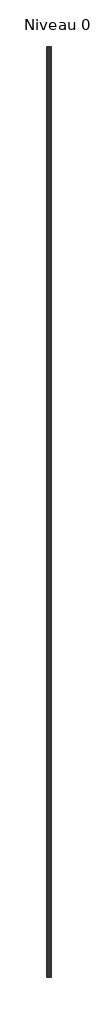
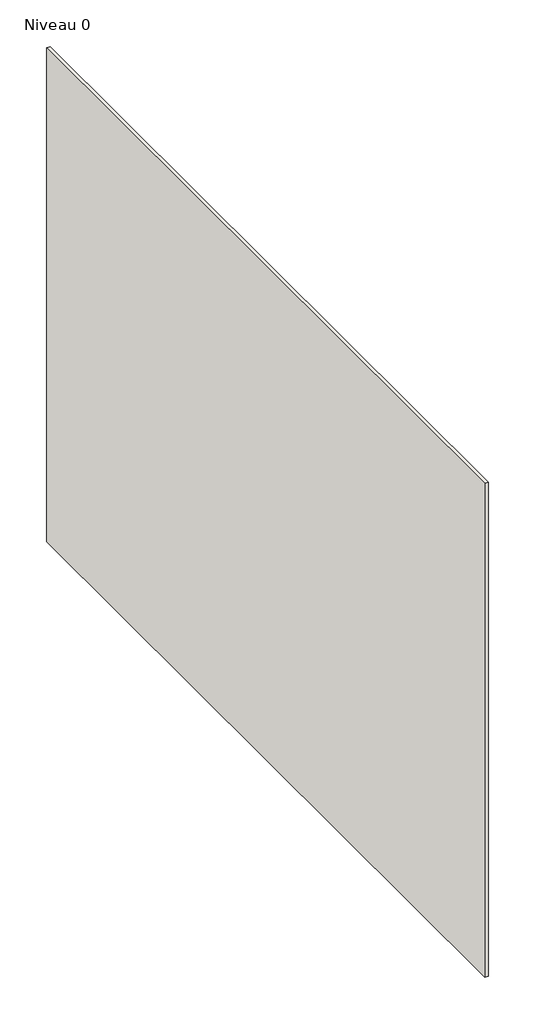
# One storey: 1 wall.
"""IFC4 building model written with IfcOpenShell, lengths in millimetres."""

import ifcopenshell
import ifcopenshell.guid

model = None  # the IFC model being written
_history = None  # IfcOwnerHistory: only IFC2X3 demands one
_inside = {}  # id of a spatial element -> (the spatial element, [elements in it])
_under = {}  # id of a project, library or spatial element -> (it, [spatial elements below it])
_declared = {}  # id of a project -> (the project, [libraries it declares])
_typed = {}  # id of a type object -> (the type object, [elements of that type])
_made_of = {}  # id of a material, layer set ... -> (it, [elements and type objects made of it])


def new_model(schema):
    """Start an empty IFC model of exactly this schema.

    Asked for "IFC4X3", IfcOpenShell would pick the latest addendum, in which some entities
    have other attributes; the version numbers below select the first issue.
    IFC2X3 requires an IfcOwnerHistory on every rooted entity: one is made here for all.
    """
    global model, _history
    if schema == "IFC4X3":
        model = ifcopenshell.file(schema_version=(4, 3, 0, 0))
    else:
        model = ifcopenshell.file(schema=schema)
    _inside.clear()
    _under.clear()
    _declared.clear()
    _typed.clear()
    _made_of.clear()
    _history = None
    if model.schema == "IFC2X3":
        org = make("IfcOrganization", Name="unknown")
        user = make(
            "IfcPersonAndOrganization",
            ThePerson=make("IfcPerson", FamilyName="unknown"),
            TheOrganization=org,
        )
        app = make(
            "IfcApplication",
            ApplicationDeveloper=org,
            Version="unknown",
            ApplicationFullName="unknown",
            ApplicationIdentifier="unknown",
        )
        _history = make(
            "IfcOwnerHistory",
            OwningUser=user,
            OwningApplication=app,
            ChangeAction="ADDED",
            CreationDate=0,
        )
    return model


def make(cls, **values):
    """One entity of the class cls with the attributes given. An attribute that is None is left unset."""
    return model.create_entity(
        cls, **{name: value for name, value in values.items() if value is not None}
    )


def rooted(cls, **values):
    """An entity with a GlobalId (a new one), such as an element, a storey or a relation."""
    return make(cls, GlobalId=ifcopenshell.guid.new(), OwnerHistory=_history, **values)


def si_unit(unit_type, name, prefix=None):
    """IfcSIUnit, for example si_unit("LENGTHUNIT", "METRE", prefix="MILLI")."""
    return make("IfcSIUnit", UnitType=unit_type, Prefix=prefix, Name=name)


def assignment(units):
    """IfcUnitAssignment: the units of a project."""
    return None if units is None else make("IfcUnitAssignment", Units=units)


def point(xyz):
    """IfcCartesianPoint."""
    return None if xyz is None else make("IfcCartesianPoint", Coordinates=xyz)


def direction(xyz):
    """IfcDirection."""
    return None if xyz is None else make("IfcDirection", DirectionRatios=xyz)


def frame(location, z_axis=None, x_axis=None):
    """IfcAxis2Placement3D, a coordinate frame: its origin and axes. An axis left out is left unset."""
    return make(
        "IfcAxis2Placement3D",
        Location=point(location),
        Axis=direction(z_axis),
        RefDirection=direction(x_axis),
    )


def origin():
    """The frame at (0, 0, 0) with its axes left unset."""
    return frame((0.0, 0.0, 0.0))


def place(relative_to, where):
    """IfcLocalPlacement: puts the frame where relative to a parent placement (None: the world)."""
    return make(
        "IfcLocalPlacement", PlacementRelTo=relative_to, RelativePlacement=where
    )


def context(
    kind, dimensions, precision=None, world=None, true_north=None, identifier=None
):
    """IfcGeometricRepresentationContext, for example the 3D "Model" context."""
    return make(
        "IfcGeometricRepresentationContext",
        ContextIdentifier=identifier,
        ContextType=kind,
        CoordinateSpaceDimension=dimensions,
        Precision=precision,
        WorldCoordinateSystem=world,
        TrueNorth=true_north,
    )


def project(units=None, contexts=None):
    """IfcProject with its units and contexts."""
    return rooted(
        "IfcProject",
        Name="project",
        RepresentationContexts=contexts,
        UnitsInContext=assignment(units),
    )


def spatial(cls, under=None, at=None, **own):
    """A site, building, storey or space (cls), placed at a placement, below another one or the project."""
    s = rooted(cls, ObjectPlacement=at, **own)
    if under is not None:
        _under.setdefault(under.id(), (under, []))[1].append(s)
    return s


def polyline(points):
    """IfcPolyline through the points."""
    return make("IfcPolyline", Points=[point(p) for p in points])


def outline(outer, holes=None, kind="AREA"):
    """IfcArbitraryClosedProfileDef: a profile drawn as a closed curve; with holes, ...WithVoids."""
    if holes is None:
        return make("IfcArbitraryClosedProfileDef", ProfileType=kind, OuterCurve=outer)
    return make(
        "IfcArbitraryProfileDefWithVoids",
        ProfileType=kind,
        OuterCurve=outer,
        InnerCurves=holes,
    )


def extrude(swept, where, along, depth):
    """IfcExtrudedAreaSolid: the profile swept, set in the frame where, extruded along a direction by depth."""
    return make(
        "IfcExtrudedAreaSolid",
        SweptArea=swept,
        Position=where,
        ExtrudedDirection=direction(along),
        Depth=depth,
    )


def shape(context_of_items, identifier, shape_type, items):
    """IfcShapeRepresentation: the items that make up one representation, for example the "Body"."""
    return make(
        "IfcShapeRepresentation",
        ContextOfItems=context_of_items,
        RepresentationIdentifier=identifier,
        RepresentationType=shape_type,
        Items=items,
    )


def made_of(thing, what):
    """Note that an element or type object is made of a material, layer set ...; save() writes the relation."""
    if what is not None:
        _made_of.setdefault(what.id(), (what, []))[1].append(thing)
    return thing


def element(
    cls,
    number,
    at=None,
    inside=None,
    cuts=None,
    type_object=None,
    material=None,
    context=None,
    identifier="Body",
    shape_type=None,
    held_by="IfcProductDefinitionShape",
    body=None,
    shapes=None,
    **own,
):
    """One element of the class cls, such as IfcWall. Its Tag is "e" and its number.

    at: its placement. inside: the storey or other place that contains it. cuts: it is an
    opening in that element (IfcRelVoidsElement). A single representation is given by context,
    identifier, shape_type and body (its items); several are given by shapes. held_by: the class
    of the entity that holds the representations. save() writes the other relations.
    """
    e = rooted(cls, Tag="e%d" % number, ObjectPlacement=at, **own)
    if body is not None:
        shapes = [shape(context, identifier, shape_type, body)]
    if shapes is not None:
        e.Representation = make(held_by, Representations=shapes)
    if inside is not None:
        _inside.setdefault(inside.id(), (inside, []))[1].append(e)
    if cuts is not None:
        rooted(
            "IfcRelVoidsElement", RelatingBuildingElement=cuts, RelatedOpeningElement=e
        )
    if type_object is not None:
        _typed.setdefault(type_object.id(), (type_object, []))[1].append(e)
    return made_of(e, material)


def aggregate(whole, parts):
    """IfcRelAggregates: a whole, such as a stair, and the parts it consists of."""
    return rooted("IfcRelAggregates", RelatingObject=whole, RelatedObjects=parts)


def save(model, path):
    """Write the relations noted so far, then the file.

    IfcRelAggregates (storeys below a building ...), IfcRelContainedInSpatialStructure (elements
    in a storey), IfcRelDefinesByType, IfcRelAssociatesMaterial and IfcRelDeclares: one each for
    every whole, place, type object, material and project.
    """
    for whole, parts in _under.values():
        aggregate(whole, parts)
    for where, things in _inside.values():
        rooted(
            "IfcRelContainedInSpatialStructure",
            RelatedElements=things,
            RelatingStructure=where,
        )
    for kind, things in _typed.values():
        rooted("IfcRelDefinesByType", RelatedObjects=things, RelatingType=kind)
    for what, things in _made_of.values():
        rooted("IfcRelAssociatesMaterial", RelatedObjects=things, RelatingMaterial=what)
    for by, libraries in _declared.values():
        rooted("IfcRelDeclares", RelatingContext=by, RelatedDefinitions=libraries)
    model.write(path)


model = new_model("IFC4")

# Units and contexts
model_context = context("Model", 3, world=origin())
ifc_project = project(units=[si_unit("LENGTHUNIT", "METRE", prefix="MILLI")], contexts=[model_context])

# Site, building, storey
site = spatial("IfcSite", under=ifc_project)
building = spatial("IfcBuilding", under=site)
storey = spatial("IfcBuildingStorey", under=building, Name="Niveau 0", Elevation=-188.1025049)

# Wall
placement = place(None, origin())
element("IfcWall", 1, ObjectType="Reckli 1 / 43 Corse", at=placement, inside=storey, context=model_context, shape_type="SweptSolid", body=[
    extrude(outline(polyline([(-2064.0106215, 2038.0808248), (-2064.0106215, 6038.0808248), (-2044.0106215, 6038.0808248), (-2044.0106215, 2038.0808248), (-2064.0106215, 2038.0808248)])), frame((0.0, 0.0, -188.1025049), z_axis=(0.0, 0.0, 1.0), x_axis=(1.0, 0.0, 0.0)), (0.0, 0.0, 1.0), 2750.0),
])

save(model, "model.ifc")
